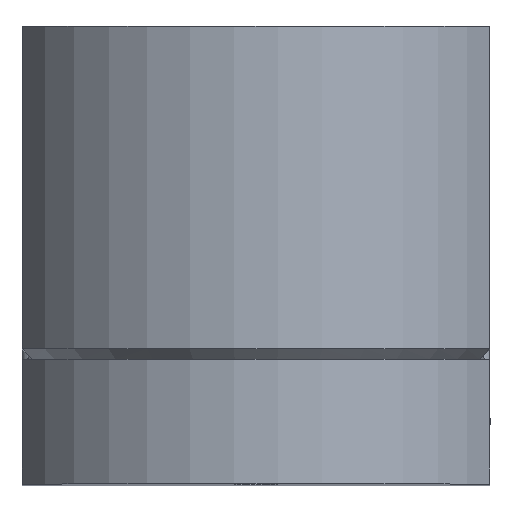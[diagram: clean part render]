
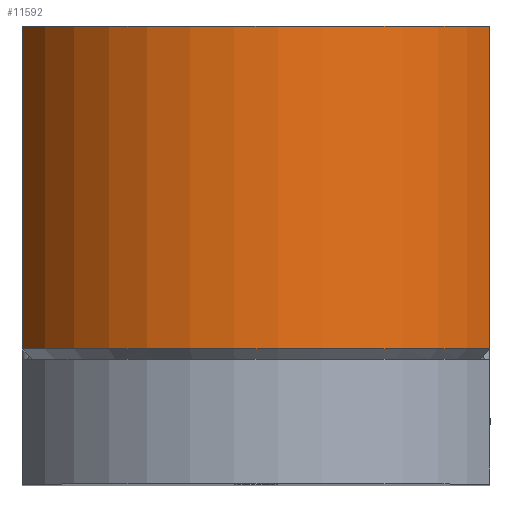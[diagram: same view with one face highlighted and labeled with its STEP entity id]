
A CAD part, top view. The second image highlights one B-rep face of the part: STEP entity #11592.
In plain terms, the highlighted cylindrical face has radius 25 mm (diameter 50 mm), a partial arc.
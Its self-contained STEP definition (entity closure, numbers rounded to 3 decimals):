
#11527=CARTESIAN_POINT('',(22.5,1.,68.349));
#11528=VERTEX_POINT('',#11527);
#11543=CARTESIAN_POINT('',(22.5,32.,68.349));
#11544=VERTEX_POINT('',#11543);
#11551=CARTESIAN_POINT('',(22.5,1.,68.349));
#11552=DIRECTION('',(0.0,1.0,0.0));
#11553=VECTOR('',#11552,31.0);
#11554=LINE('',#11551,#11553);
#11555=EDGE_CURVE('',#11528,#11544,#11554,.T.);
#11560=CARTESIAN_POINT('',(0.,0.0,57.452));
#11561=DIRECTION('',(0.,1.0,0.));
#11562=DIRECTION('',(-0.9,0.,0.436));
#11563=AXIS2_PLACEMENT_3D('',#11560,#11561,#11562);
#11564=CYLINDRICAL_SURFACE('',#11563,25.);
#11565=CARTESIAN_POINT('',(-22.5,1.,68.349));
#11566=VERTEX_POINT('',#11565);
#11567=CARTESIAN_POINT('',(0.,1.0,57.452));
#11568=DIRECTION('',(0.,-1.0,0.));
#11569=DIRECTION('',(-0.9,0.,0.436));
#11570=AXIS2_PLACEMENT_3D('',#11567,#11568,#11569);
#11571=CIRCLE('',#11570,25.0);
#11572=EDGE_CURVE('',#11528,#11566,#11571,.T.);
#11573=ORIENTED_EDGE('',*,*,#11572,.F.);
#11574=ORIENTED_EDGE('',*,*,#11555,.T.);
#11575=CARTESIAN_POINT('',(-22.5,32.,68.349));
#11576=VERTEX_POINT('',#11575);
#11577=CARTESIAN_POINT('',(0.,32.0,57.452));
#11578=DIRECTION('',(0.,-1.0,0.));
#11579=DIRECTION('',(-0.9,0.,0.436));
#11580=AXIS2_PLACEMENT_3D('',#11577,#11578,#11579);
#11581=CIRCLE('',#11580,25.);
#11582=EDGE_CURVE('',#11544,#11576,#11581,.T.);
#11583=ORIENTED_EDGE('',*,*,#11582,.T.);
#11584=CARTESIAN_POINT('',(-22.5,1.,68.349));
#11585=DIRECTION('',(0.0,1.0,0.0));
#11586=VECTOR('',#11585,31.);
#11587=LINE('',#11584,#11586);
#11588=EDGE_CURVE('',#11566,#11576,#11587,.T.);
#11589=ORIENTED_EDGE('',*,*,#11588,.F.);
#11590=EDGE_LOOP('',(#11573,#11574,#11583,#11589));
#11591=FACE_OUTER_BOUND('',#11590,.T.);
#11592=ADVANCED_FACE('',(#11591),#11564,.T.);
